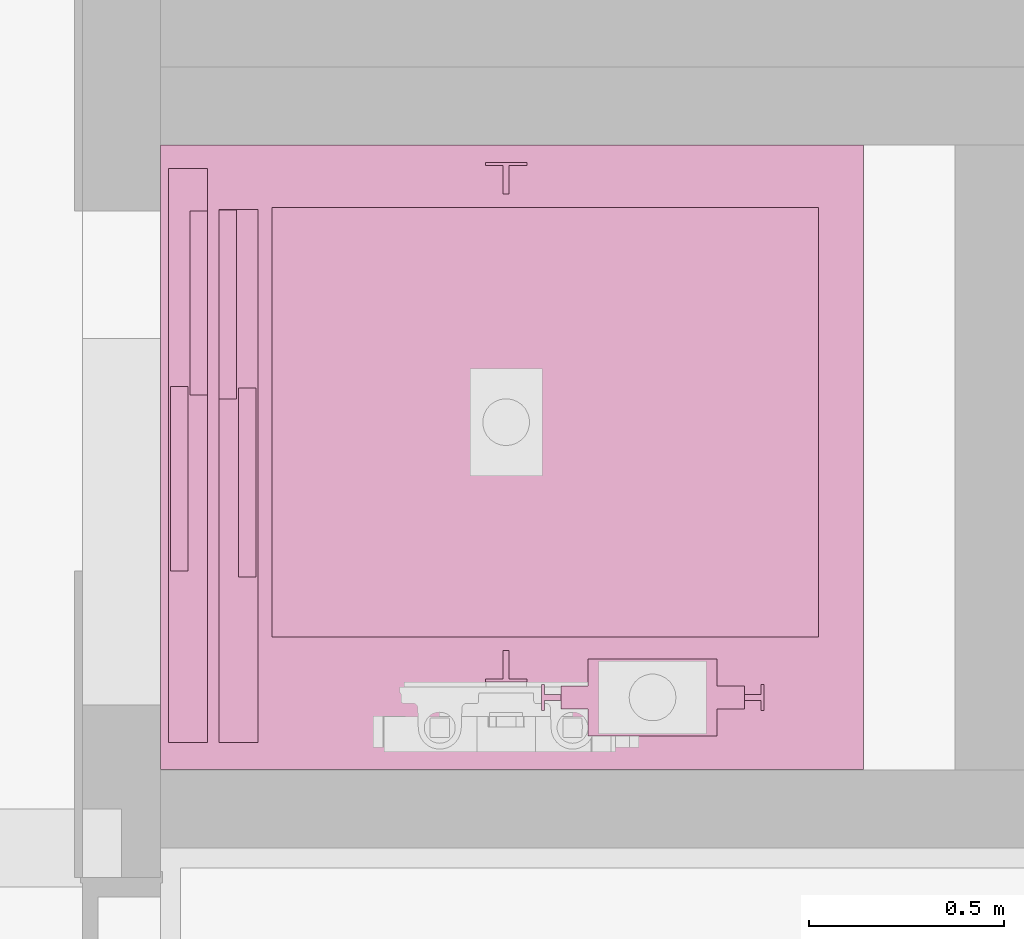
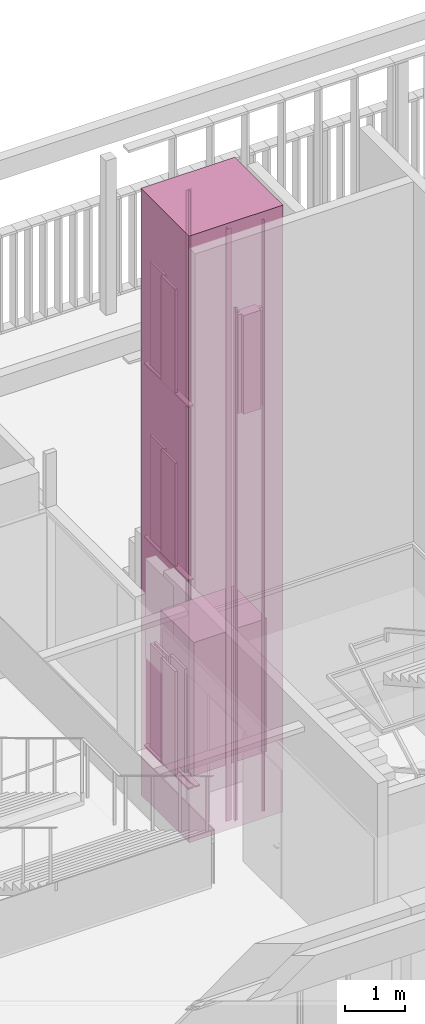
# One storey, part 236 of 240: 11 transport elements.
"""IFC2X3 building model written with IfcOpenShell, lengths in centimetres."""

from ifc_helpers import new_model, entity, si_unit, converted_unit, derived_unit, direction, frame, frame_2d, origin, origin_2d_with_axis, place, context, subcontext, project, spatial, polyline, rectangle, outline, extrude, source, transform, mapped, material, type_object, type_shapes, element, save


model = new_model("IFC2X3")

# Units and contexts
model_context = context("Model", 3, precision=0.001, world=origin(), true_north=direction((6.12303176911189e-17, 1.0)))
body_context = subcontext(model_context, "Body", "Model", "MODEL_VIEW")
ifc_project = project(units=[si_unit("LENGTHUNIT", "METRE", prefix="CENTI"), si_unit("AREAUNIT", "SQUARE_METRE"), si_unit("VOLUMEUNIT", "CUBIC_METRE"), converted_unit("PLANEANGLEUNIT", "DEGREE", entity("IfcRatioMeasure", 0.0174532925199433), si_unit("PLANEANGLEUNIT", "RADIAN"), dimensions=[0, 0, 0, 0, 0, 0, 0]), si_unit("MASSUNIT", "GRAM", prefix="KILO"), derived_unit("MASSDENSITYUNIT", [(si_unit("MASSUNIT", "GRAM", prefix="KILO"), 1), (si_unit("LENGTHUNIT", "METRE"), -3)]), si_unit("TIMEUNIT", "SECOND"), si_unit("FREQUENCYUNIT", "HERTZ"), si_unit("THERMODYNAMICTEMPERATUREUNIT", "DEGREE_CELSIUS"), derived_unit("THERMALTRANSMITTANCEUNIT", [(si_unit("MASSUNIT", "GRAM", prefix="KILO"), 1), (si_unit("THERMODYNAMICTEMPERATUREUNIT", "KELVIN"), -1), (si_unit("TIMEUNIT", "SECOND"), -3)]), derived_unit("VOLUMETRICFLOWRATEUNIT", [(si_unit("LENGTHUNIT", "METRE"), 3), (si_unit("TIMEUNIT", "SECOND"), -1)]), si_unit("ELECTRICCURRENTUNIT", "AMPERE"), si_unit("ELECTRICVOLTAGEUNIT", "VOLT"), si_unit("POWERUNIT", "WATT"), si_unit("FORCEUNIT", "NEWTON", prefix="KILO"), si_unit("ILLUMINANCEUNIT", "LUX"), si_unit("LUMINOUSFLUXUNIT", "LUMEN"), si_unit("LUMINOUSINTENSITYUNIT", "CANDELA"), derived_unit("USERDEFINED", [(si_unit("MASSUNIT", "GRAM", prefix="KILO"), -1), (si_unit("LENGTHUNIT", "METRE"), -2), (si_unit("TIMEUNIT", "SECOND"), 3), (si_unit("LUMINOUSFLUXUNIT", "LUMEN"), 1)]), derived_unit("LINEARVELOCITYUNIT", [(si_unit("LENGTHUNIT", "METRE"), 1), (si_unit("TIMEUNIT", "SECOND"), -1)]), si_unit("PRESSUREUNIT", "PASCAL"), derived_unit("USERDEFINED", [(si_unit("LENGTHUNIT", "METRE"), -2), (si_unit("MASSUNIT", "GRAM", prefix="KILO"), 1), (si_unit("TIMEUNIT", "SECOND"), -2)])], contexts=[model_context])

# Site, building, storey
site_placement = place(None, frame((-2781.94577612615, 7442.24238424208, 0.0)))
site = spatial("IfcSite", under=ifc_project, at=site_placement, Name="Default", CompositionType="ELEMENT")
building_placement = place(site_placement, origin())
building = spatial("IfcBuilding", under=site, at=building_placement, CompositionType="ELEMENT")
storey_placement = place(building_placement, origin())
storey = spatial("IfcBuildingStorey", under=building, at=storey_placement, Name="N00 - COO", CompositionType="ELEMENT", Elevation=0.0)

# Transport elements
ifc_material_1 = material(Name="Void")
transport_element_type_1 = type_object("IfcTransportElementType", Name="KONE_MonoSpace_500_2018-02-05", PredefinedType="NOTDEFINED", material=ifc_material_1)
shared_shape_1 = source(origin(), body_context, "Body", "SweptSolid", [
    extrude(rectangle(XDim=160.0, YDim=180.000000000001, at=origin_2d_with_axis()), frame((-100.0, 67.4999999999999, 774.0)), (0.0, 0.0, 1.0), 350.0),
    extrude(rectangle(XDim=160.0, YDim=180.000000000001, at=origin_2d_with_axis()), frame((-100.0, 67.4999999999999, 0.0)), (0.0, 0.0, 1.0), 774.0),
    extrude(rectangle(XDim=160.0, YDim=180.000000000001, at=origin_2d_with_axis()), frame((-100.0, 67.4999999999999, -105.0)), (0.0, 0.0, 1.0), 104.999999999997),
])
type_shapes(transport_element_type_1, [shared_shape_1])
transport_element_1_placement = place(storey_placement, frame((-3490.49987968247, -1090.0067703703, 0.0), z_axis=(0.0, 0.0, 1.0), x_axis=(0.0, 1.0, 0.0)))
element("IfcTransportElement", 1, at=transport_element_1_placement, inside=storey, type_object=transport_element_type_1, material=ifc_material_1, Name="KONE_MonoSpace_500_2018-02-05:KONE_MonoSpace_500_2018-02-05", ObjectType="KONE_MonoSpace_500_2018-02-05:KONE_MonoSpace_500_2018-02-05", CapacityByNumber=0.0, CapacityByWeight=0.0, OperationType="ELEVATOR", context=body_context, shape_type="MappedRepresentation", body=[
    mapped(shared_shape_1, transform((0.0, 0.0, 0.0), scale=1.0)),
])
transport_element_type_2 = type_object("IfcTransportElementType", Name="KONE_CWT_guiderail", PredefinedType="NOTDEFINED")
shared_shape_2 = source(origin(), body_context, "Body", "SweptSolid", [
    extrude(outline(polyline([(-0.793999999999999, -3.35500000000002), (0.794000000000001, -3.35500000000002), (0.794000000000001, 0.855000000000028), (3.33333333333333, 0.855000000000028), (3.33333333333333, 1.64500000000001), (-3.33333333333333, 1.64500000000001), (-3.33333333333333, 0.854999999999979), (-0.793999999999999, 0.854999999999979), (-0.793999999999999, -3.35500000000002)])), frame((0.0, -1.64500000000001, 0.0)), (0.0, 0.0, 1.0), 1039.0),
])
type_shapes(transport_element_type_2, [shared_shape_2])
transport_element_2_placement = place(storey_placement, frame((-3550.49987968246, -1251.5067703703, -105.0), z_axis=(0.0, 0.0, 1.0), x_axis=(0.0, 1.0, 0.0)))
element("IfcTransportElement", 2, at=transport_element_2_placement, inside=storey, type_object=transport_element_type_2, Name="KONE_CWT_guiderail:KONE_CWT_guiderail", ObjectType="KONE_CWT_guiderail:KONE_CWT_guiderail", CapacityByNumber=0.0, CapacityByWeight=0.0, OperationType="ELEVATOR", context=body_context, shape_type="MappedRepresentation", body=[
    mapped(shared_shape_2, transform((0.0, 0.0, 0.0), scale=1.0)),
])
transport_element_type_3 = type_object("IfcTransportElementType", Name="KONE_CWT_guiderail", PredefinedType="NOTDEFINED")
shared_shape_3 = source(origin(), body_context, "Body", "SweptSolid", [
    extrude(outline(polyline([(-0.793999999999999, -3.35500000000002), (0.794000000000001, -3.35500000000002), (0.794000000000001, 0.855000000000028), (3.33333333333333, 0.855000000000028), (3.33333333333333, 1.64500000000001), (-3.33333333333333, 1.64500000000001), (-3.33333333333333, 0.854999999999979), (-0.793999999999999, 0.854999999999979), (-0.793999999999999, -3.35500000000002)])), frame((0.0, -1.64500000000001, 0.0)), (0.0, 0.0, 1.0), 1199.0),
])
type_shapes(transport_element_type_3, [shared_shape_3])
transport_element_3_placement = place(storey_placement, frame((-3493.49987968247, -1251.5067703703, -105.0), z_axis=(0.0, 0.0, 1.0), x_axis=(0.0, -1.0, 0.0)))
element("IfcTransportElement", 3, at=transport_element_3_placement, inside=storey, type_object=transport_element_type_3, Name="KONE_CWT_guiderail:KONE_CWT_guiderail", ObjectType="KONE_CWT_guiderail:KONE_CWT_guiderail", CapacityByNumber=0.0, CapacityByWeight=0.0, OperationType="ELEVATOR", context=body_context, shape_type="MappedRepresentation", body=[
    mapped(shared_shape_3, transform((0.0, 0.0, 0.0), scale=1.0)),
])
transport_element_type_4 = type_object("IfcTransportElementType", Name="KONE_Car_guiderail", PredefinedType="NOTDEFINED")
shared_shape_4 = source(origin(), body_context, "Body", "SweptSolid", [
    extrude(outline(polyline([(-5.60500000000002, 0.793999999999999), (-5.60500000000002, -0.794000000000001), (1.60500000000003, -0.794000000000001), (1.60500000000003, -5.33333333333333), (2.39500000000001, -5.33333333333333), (2.39500000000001, 5.33333333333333), (1.60499999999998, 5.33333333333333), (1.60499999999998, 0.793999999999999), (-5.60500000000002, 0.793999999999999)])), frame((0.0, 2.39500000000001, 0.0), z_axis=(0.0, 0.0, -1.0), x_axis=(0.0, -1.0, 0.0)), (0.0, 0.0, -1.0), 1199.0),
])
type_shapes(transport_element_type_4, [shared_shape_4])
transport_element_4_placement = place(storey_placement, frame((-3559.49987968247, -1114.5067703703, -105.0), z_axis=(0.0, 0.0, 1.0), x_axis=(-1.0, 0.0, 0.0)))
element("IfcTransportElement", 4, at=transport_element_4_placement, inside=storey, type_object=transport_element_type_4, Name="KONE_Car_guiderail:KONE_Car_guiderail", ObjectType="KONE_Car_guiderail:KONE_Car_guiderail", CapacityByNumber=0.0, CapacityByWeight=0.0, OperationType="ELEVATOR", context=body_context, shape_type="MappedRepresentation", body=[
    mapped(shared_shape_4, transform((0.0, 0.0, 0.0), scale=1.0)),
])
transport_element_5_placement = place(storey_placement, frame((-3559.49987968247, -1247.5067703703, -105.0)))
element("IfcTransportElement", 5, at=transport_element_5_placement, inside=storey, type_object=transport_element_type_4, Name="KONE_Car_guiderail:KONE_Car_guiderail", ObjectType="KONE_Car_guiderail:KONE_Car_guiderail", CapacityByNumber=0.0, CapacityByWeight=0.0, OperationType="ELEVATOR", context=body_context, shape_type="MappedRepresentation", body=[
    mapped(shared_shape_4, transform((0.0, 0.0, 0.0), scale=1.0)),
])

# Space
space_placement = place(building_placement, origin())
space = spatial("IfcSpace", under=storey, at=space_placement, Name="B-22", CompositionType="ELEMENT", InteriorOrExteriorSpace="INTERNAL")

# Transport elements
transport_element_type_5 = type_object("IfcTransportElementType", Name="KONE_Car", PredefinedType="NOTDEFINED")
shared_shape_5 = source(origin(), body_context, "Body", "SweptSolid", [
    extrude(rectangle(XDim=140.000000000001, YDim=110.0, at=origin_2d_with_axis()), frame((0.0, 0.0, 0.0), z_axis=(0.0, 0.0, 1.0), x_axis=(0.0, 1.0, 0.0)), (0.0, 0.0, 1.0), 270.0),
])
type_shapes(transport_element_type_5, [shared_shape_5])
transport_element_6_placement = place(space_placement, frame((-3549.49987968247, -1181.0067703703, 0.0), z_axis=(0.0, 0.0, 1.0), x_axis=(0.0, 1.0, 0.0)))
element("IfcTransportElement", 6, at=transport_element_6_placement, inside=space, type_object=transport_element_type_5, Name="KONE_Car:KONE_Car", ObjectType="KONE_Car:KONE_Car", CapacityByNumber=0.0, CapacityByWeight=0.0, OperationType="ELEVATOR", context=body_context, shape_type="MappedRepresentation", body=[
    mapped(shared_shape_5, transform((0.0, 0.0, 0.0), scale=1.0)),
])
transport_element_type_6 = type_object("IfcTransportElementType", Name="KONE_Car_Door_2L", PredefinedType="NOTDEFINED")
shared_shape_6 = source(origin(), body_context, "Body", "SweptSolid", [
    extrude(rectangle(XDim=4.50000000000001, YDim=48.35, at=frame_2d((-8.88178419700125e-16, 0.0), x_axis=(1.0, 0.0))), frame((22.1250000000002, 6.29438220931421, 0.0), z_axis=(0.0, 0.0, 1.0), x_axis=(0.0, -1.0, 0.0)), (0.0, 0.0, 1.0), 210.0),
    extrude(rectangle(XDim=4.50000000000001, YDim=48.35, at=frame_2d((-1.11022302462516e-15, 0.0), x_axis=(1.0, 0.0))), frame((-23.4749999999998, 1.29438220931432, 0.0), z_axis=(0.0, 0.0, 1.0), x_axis=(0.0, -1.0, 0.0)), (0.0, 0.0, 1.0), 210.0),
    extrude(rectangle(XDim=136.5, YDim=10.0, at=origin_2d_with_axis()), frame((-21.75, 3.54438220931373, -3.0)), (0.0, 0.0, 1.0), 3.00000000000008),
])
type_shapes(transport_element_type_6, [shared_shape_6])
transport_element_7_placement = place(space_placement, frame((-3624.45549747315, -1173.0067703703, 0.0), z_axis=(0.0, 0.0, 1.0), x_axis=(0.0, 1.0, 0.0)))
element("IfcTransportElement", 7, at=transport_element_7_placement, inside=space, type_object=transport_element_type_6, Name="KONE_Car_Door_2L:KONE_Car_Door_2L", ObjectType="KONE_Car_Door_2L:KONE_Car_Door_2L", CapacityByNumber=0.0, CapacityByWeight=0.0, OperationType="ELEVATOR", context=body_context, shape_type="MappedRepresentation", body=[
    mapped(shared_shape_6, transform((0.0, 0.0, 0.0), scale=1.0)),
])
transport_element_type_7 = type_object("IfcTransportElementType", Name="KONE_CWT", PredefinedType="NOTDEFINED")
shared_shape_7 = source(origin(), body_context, "Body", "SweptSolid", [
    extrude(outline(polyline([(-23.4999999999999, 3.0), (-23.4999999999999, -3.0), (-16.5, -3.0), (-16.5, -9.90000000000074), (16.5, -9.90000000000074), (16.5, -3.0), (23.5, -3.0), (23.5, 3.0), (16.5, 3.0), (16.5, 9.90000000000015), (-16.5, 9.90000000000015), (-16.5, 3.0), (-23.4999999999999, 3.0)])), frame((0.0, 0.0, 2000.0), z_axis=(0.0, 0.0, -1.0), x_axis=(0.0, 1.0, 0.0)), (0.0, 0.0, -1.0), 199.999999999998),
])
type_shapes(transport_element_type_7, [shared_shape_7])
transport_element_8_placement = place(storey_placement, frame((-3521.99987968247, -1251.5067703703, -1281.0), z_axis=(0.0, 0.0, 1.0), x_axis=(0.0, 1.0, 0.0)))
element("IfcTransportElement", 8, at=transport_element_8_placement, inside=storey, type_object=transport_element_type_7, Name="KONE_CWT:KONE_CWT", ObjectType="KONE_CWT:KONE_CWT", CapacityByNumber=0.0, CapacityByWeight=0.0, OperationType="ELEVATOR", context=body_context, shape_type="MappedRepresentation", body=[
    mapped(shared_shape_7, transform((0.0, 0.0, 0.0), scale=1.0)),
])
ifc_material_2 = material(Name="Default")
transport_element_type_8 = type_object("IfcTransportElementType", Name="KONE_LDO_Design_2L_P10", PredefinedType="NOTDEFINED", material=ifc_material_2)
shared_shape_8 = source(origin(), body_context, "Body", "SweptSolid", [
    extrude(rectangle(XDim=47.2, YDim=4.5, at=frame_2d((0.0, 1.33226762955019e-15), x_axis=(1.0, 0.0))), frame((-22.5000000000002, 2.79438220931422, 0.0), z_axis=(0.0, 0.0, 1.0), x_axis=(-1.0, 0.0, 0.0)), (0.0, 0.0, 1.0), 210.0),
    extrude(rectangle(XDim=47.2, YDim=4.5, at=frame_2d((0.0, 1.33226762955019e-15), x_axis=(1.0, 0.0))), frame((22.4999999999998, -2.20561779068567, 0.0), z_axis=(0.0, 0.0, 1.0), x_axis=(-1.0, 0.0, 0.0)), (0.0, 0.0, 1.0), 210.0),
    extrude(rectangle(XDim=10.0, YDim=147.0, at=frame_2d((8.88178419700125e-16, 0.0), x_axis=(1.0, 0.0))), frame((16.5, 0.044382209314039, -2.70000000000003), z_axis=(0.0, 0.0, 1.0), x_axis=(0.0, 1.0, 0.0)), (0.0, 0.0, 1.0), 3.00000000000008),
])
type_shapes(transport_element_type_8, [shared_shape_8])
transport_element_9_placement = place(space_placement, frame((-3641.04426189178, -1173.0067703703, 0.0), z_axis=(0.0, 0.0, 1.0), x_axis=(0.0, -1.0, 0.0)))
element("IfcTransportElement", 9, at=transport_element_9_placement, inside=space, type_object=transport_element_type_8, material=ifc_material_2, Name="KONE_LDO_Design_2L_P10:KONE_LDO_Design_2L_P10", ObjectType="KONE_LDO_Design_2L_P10:KONE_LDO_Design_2L_P10", CapacityByNumber=0.0, CapacityByWeight=0.0, OperationType="ELEVATOR", context=body_context, shape_type="MappedRepresentation", body=[
    mapped(shared_shape_8, transform((0.0, 0.0, 0.0), scale=1.0)),
])
for number, where, z_axis, x_axis in (
    (10, (-3641.04426189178, -1173.0067703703, 422.000013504), (0.0, 0.0, 1.0), (0.0, -1.0, 0.0)),
    (11, (-3641.04426189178, -1173.0067703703, 774.0), (0.0, 0.0, 1.0), (0.0, -1.0, 0.0)),
):
    element("IfcTransportElement", number, at=place(storey_placement, frame(where, z_axis=z_axis, x_axis=x_axis)), inside=storey, type_object=transport_element_type_8, material=ifc_material_2, Name="KONE_LDO_Design_2L_P10:KONE_LDO_Design_2L_P10", ObjectType="KONE_LDO_Design_2L_P10:KONE_LDO_Design_2L_P10", CapacityByNumber=0.0, CapacityByWeight=0.0, OperationType="ELEVATOR", context=body_context, shape_type="MappedRepresentation", body=[
        mapped(shared_shape_8, transform((0.0, 0.0, 0.0), scale=1.0)),
    ])

save(model, "model.ifc")
